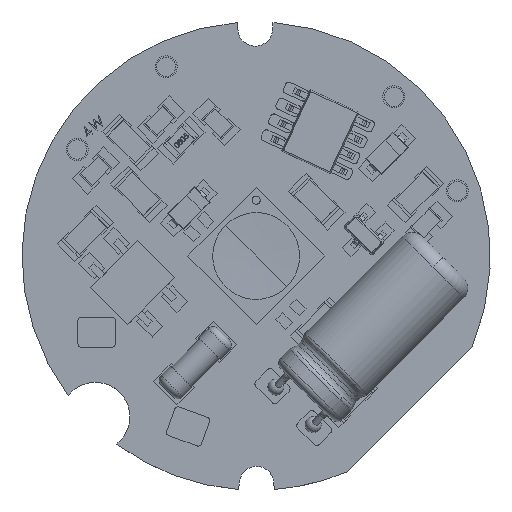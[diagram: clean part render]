
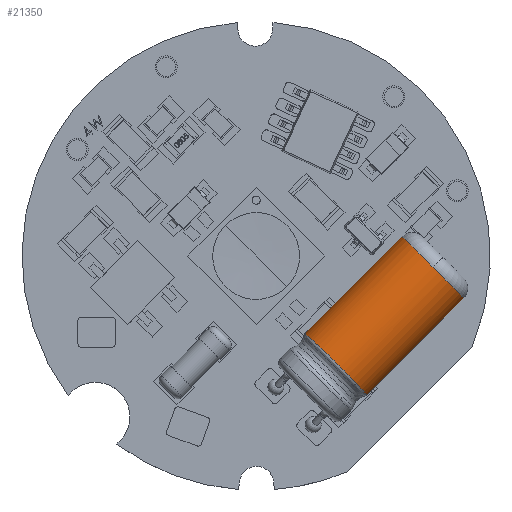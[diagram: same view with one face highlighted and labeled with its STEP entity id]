
A CAD part, top view. The second image highlights one B-rep face of the part: STEP entity #21350.
In plain terms, the highlighted cylindrical face has radius 3.15 mm (diameter 6.3 mm), a partial arc.
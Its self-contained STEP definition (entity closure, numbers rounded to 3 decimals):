
#20380=CARTESIAN_POINT('',(13.,3.35,0.));
#20390=DIRECTION('',(-1.,0.,0.));
#20400=DIRECTION('',(0.,0.,-1.));
#20410=AXIS2_PLACEMENT_3D('',#20380,#20390,#20400);
#20420=CIRCLE('',#20410,3.15);
#20430=CARTESIAN_POINT('',(13.,3.35,3.15));
#20440=VERTEX_POINT('',#20430);
#20470=CARTESIAN_POINT('',(13.,6.5,0.));
#20480=VERTEX_POINT('',#20470);
#20490=EDGE_CURVE('',#20440,#20480,#20420,.T.);
#20650=CARTESIAN_POINT('',(12.,3.35,0.));
#20660=DIRECTION('',(-1.,0.,0.));
#20670=DIRECTION('',(0.,0.,1.));
#20680=AXIS2_PLACEMENT_3D('',#20650,#20660,#20670);
#20690=CYLINDRICAL_SURFACE('',#20680,3.15);
#20700=CARTESIAN_POINT('',(3.091,5.754,
2.036));
#20710=CARTESIAN_POINT('',(3.1,6.024,
1.717));
#20720=CARTESIAN_POINT('',(3.106,6.224,
1.353));
#20730=CARTESIAN_POINT('',(3.112,6.413,
0.763));
#20740=CARTESIAN_POINT('',(3.113,6.457,
0.558));
#20750=CARTESIAN_POINT('',(3.114,6.503,
0.15));
#20760=CARTESIAN_POINT('',(3.114,6.506,
-0.056));
#20770=CARTESIAN_POINT('',(3.113,6.472,
-0.471));
#20780=CARTESIAN_POINT('',(3.112,6.434,
-0.673));
#20790=CARTESIAN_POINT('',(3.109,6.321,
-1.068));
#20800=CARTESIAN_POINT('',(3.106,6.243,
-1.262));
#20810=CARTESIAN_POINT('',(3.1,6.054,
-1.629));
#20820=CARTESIAN_POINT('',(3.097,5.942,
-1.801));
#20830=CARTESIAN_POINT('',(3.089,5.686,
-2.124));
#20840=CARTESIAN_POINT('',(3.084,5.539,
-2.274));
#20850=CARTESIAN_POINT('',(3.073,5.226,
-2.539));
#20860=CARTESIAN_POINT('',(3.068,5.057,
-2.656));
#20870=CARTESIAN_POINT('',(3.055,4.694,
-2.857));
#20880=CARTESIAN_POINT('',(3.048,4.503,
-2.938));
#20890=CARTESIAN_POINT('',(3.033,4.112,
-3.063));
#20900=CARTESIAN_POINT('',(3.025,3.909,
-3.107));
#20910=CARTESIAN_POINT('',(3.012,3.586,
-3.143));
#20920=CARTESIAN_POINT('',(3.007,3.468,
-3.15));
#20930=CARTESIAN_POINT('',(3.002,3.35,
-3.15));
#20940=B_SPLINE_CURVE_WITH_KNOTS('',3,(#20700,#20710,#20720,#20730,
#20740,#20750,#20760,#20770,#20780,#20790,#20800,#20810,#20820,#20830,
#20840,#20850,#20860,#20870,#20880,#20890,#20900,#20910,#20920,#20930),
.UNSPECIFIED.,.F.,.F.,(4,2,2,2,2,2,2,2,2,2,2,4),(0.,0.173,
0.259,0.346,0.432,0.518,
0.605,0.691,0.778,0.864,
0.95,1.),.UNSPECIFIED.);
#20950=CARTESIAN_POINT('',(3.091,5.754,
2.036));
#20960=VERTEX_POINT('',#20950);
#20970=CARTESIAN_POINT('',(3.002,3.35,-3.15));
#20980=VERTEX_POINT('',#20970);
#20990=EDGE_CURVE('',#20960,#20980,#20940,.T.);
#21000=ORIENTED_EDGE('',*,*,#20990,.F.);
#21010=CARTESIAN_POINT('',(12.,3.35,-3.15));
#21020=DIRECTION('',(-1.,0.,0.));
#21030=VECTOR('',#21020,1.);
#21040=LINE('',#21010,#21030);
#21050=CARTESIAN_POINT('',(13.,3.35,-3.15));
#21060=VERTEX_POINT('',#21050);
#21070=EDGE_CURVE('',#21060,#20980,#21040,.T.);
#21080=ORIENTED_EDGE('',*,*,#21070,.T.);
#21090=EDGE_CURVE('',#20480,#21060,#20420,.T.);
#21100=ORIENTED_EDGE('',*,*,#21090,.T.);
#21110=ORIENTED_EDGE('',*,*,#20490,.T.);
#21120=CARTESIAN_POINT('',(12.,3.35,3.15));
#21130=DIRECTION('',(-1.,0.,0.));
#21140=VECTOR('',#21130,1.);
#21150=LINE('',#21120,#21140);
#21160=CARTESIAN_POINT('',(3.002,3.35,3.15));
#21170=VERTEX_POINT('',#21160);
#21180=EDGE_CURVE('',#20440,#21170,#21150,.T.);
#21190=ORIENTED_EDGE('',*,*,#21180,.F.);
#21200=CARTESIAN_POINT('',(3.002,3.35,
3.15));
#21210=CARTESIAN_POINT('',(3.006,3.436,
3.15));
#21220=CARTESIAN_POINT('',(3.01,3.522,
3.146));
#21230=CARTESIAN_POINT('',(3.022,3.816,
3.122));
#21240=CARTESIAN_POINT('',(3.03,4.018,
3.085));
#21250=CARTESIAN_POINT('',(3.045,4.413,
2.972));
#21260=CARTESIAN_POINT('',(3.052,4.607,
2.896));
#21270=CARTESIAN_POINT('',(3.071,5.158,
2.612));
#21280=CARTESIAN_POINT('',(3.082,5.484,
2.355));
#21290=CARTESIAN_POINT('',(3.091,5.754,
2.036));
#21300=(BOUNDED_CURVE() B_SPLINE_CURVE(3,(#21200,#21210,#21220,#21230,
#21240,#21250,#21260,#21270,#21280,#21290),.UNSPECIFIED.,.F.,.F.) 
B_SPLINE_CURVE_WITH_KNOTS((4,2,2,2,4),(0.,0.095,
0.321,0.547,1.),.UNSPECIFIED.) CURVE() 
GEOMETRIC_REPRESENTATION_ITEM() RATIONAL_B_SPLINE_CURVE((
1.,1.,1.,1.,
1.,1.,1.,1.,
1.,1.)) REPRESENTATION_ITEM(''));
#21310=EDGE_CURVE('',#21170,#20960,#21300,.T.);
#21320=ORIENTED_EDGE('',*,*,#21310,.F.);
#21330=EDGE_LOOP('',(#21320,#21190,#21110,#21100,#21080,#21000));
#21340=FACE_OUTER_BOUND('',#21330,.T.);
#21350=ADVANCED_FACE('',(#21340),#20690,.T.);
